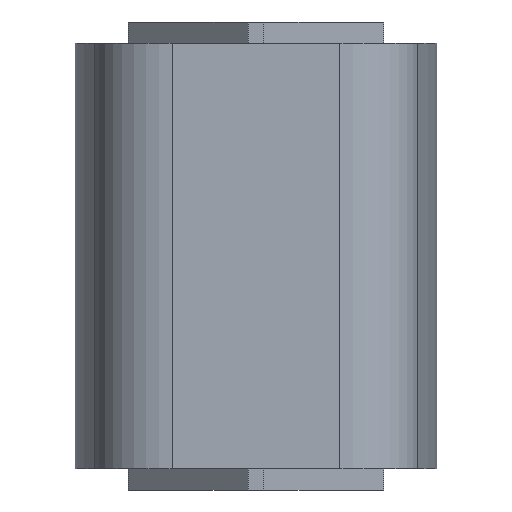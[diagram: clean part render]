
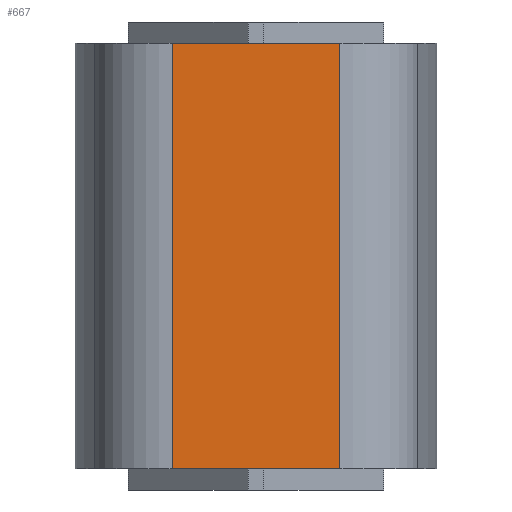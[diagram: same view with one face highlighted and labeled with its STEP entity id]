
A CAD part, left-side view. The second image highlights one B-rep face of the part: STEP entity #667.
In plain terms, the highlighted planar face has unit normal (-1, 0, 0).
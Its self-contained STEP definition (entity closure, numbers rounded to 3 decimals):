
#602=CARTESIAN_POINT('',(-74.7,-19.731,100.0));
#603=VERTEX_POINT('',#602);
#611=CARTESIAN_POINT('',(-74.7,-19.731,0.0));
#612=VERTEX_POINT('',#611);
#613=CARTESIAN_POINT('',(-74.7,-19.731,0.0));
#614=DIRECTION('',(0.0,0.0,1.0));
#615=VECTOR('',#614,100.0);
#616=LINE('',#613,#615);
#617=EDGE_CURVE('',#612,#603,#616,.T.);
#637=CARTESIAN_POINT('',(-74.7,-19.731,0.0));
#638=DIRECTION('',(-1.0,0.0,0.0));
#639=DIRECTION('',(0.0,0.0,1.0));
#640=AXIS2_PLACEMENT_3D('',#637,#638,#639);
#641=PLANE('',#640);
#642=CARTESIAN_POINT('',(-74.7,19.731,100.0));
#643=VERTEX_POINT('',#642);
#644=CARTESIAN_POINT('',(-74.7,-19.731,100.0));
#645=DIRECTION('',(0.0,1.0,0.0));
#646=VECTOR('',#645,39.463);
#647=LINE('',#644,#646);
#648=EDGE_CURVE('',#603,#643,#647,.T.);
#649=ORIENTED_EDGE('',*,*,#648,.T.);
#650=CARTESIAN_POINT('',(-74.7,19.731,0.0));
#651=VERTEX_POINT('',#650);
#652=CARTESIAN_POINT('',(-74.7,19.731,0.0));
#653=DIRECTION('',(0.0,0.0,1.0));
#654=VECTOR('',#653,100.0);
#655=LINE('',#652,#654);
#656=EDGE_CURVE('',#651,#643,#655,.T.);
#657=ORIENTED_EDGE('',*,*,#656,.F.);
#658=CARTESIAN_POINT('',(-74.7,19.731,0.0));
#659=DIRECTION('',(0.0,-1.0,0.0));
#660=VECTOR('',#659,39.463);
#661=LINE('',#658,#660);
#662=EDGE_CURVE('',#651,#612,#661,.T.);
#663=ORIENTED_EDGE('',*,*,#662,.T.);
#664=ORIENTED_EDGE('',*,*,#617,.T.);
#665=EDGE_LOOP('',(#649,#657,#663,#664));
#666=FACE_OUTER_BOUND('',#665,.T.);
#667=ADVANCED_FACE('',(#666),#641,.T.);
